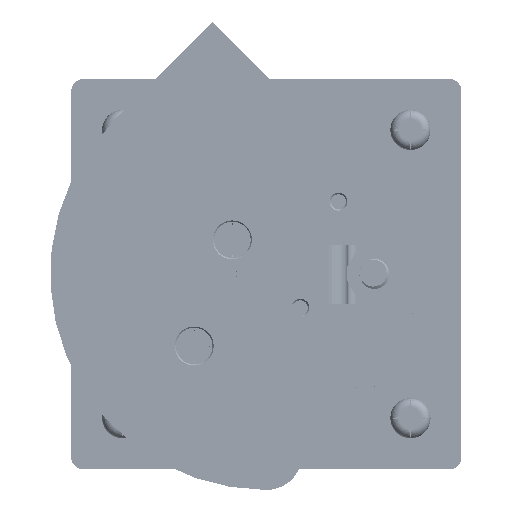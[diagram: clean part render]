
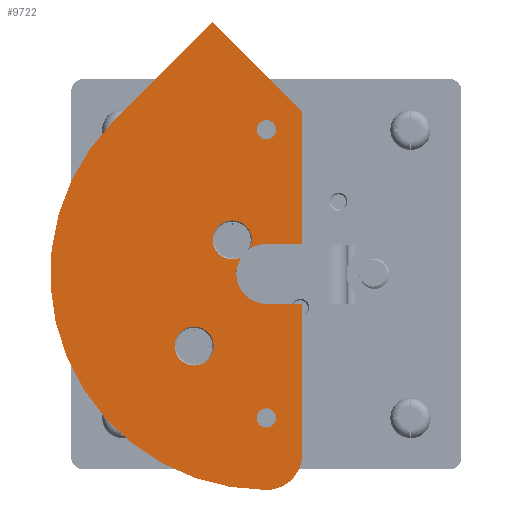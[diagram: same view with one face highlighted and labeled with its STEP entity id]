
A CAD part, front view. The second image highlights one B-rep face of the part: STEP entity #9722.
In plain terms, the highlighted planar face has unit normal (0, -1, 0).
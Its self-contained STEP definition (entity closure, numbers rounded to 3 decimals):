
#9722=ADVANCED_FACE('',(#10740,#10741,#10742,#10743),#10363,.T.);
#10363=PLANE('',#28444);
#10740=FACE_BOUND('',#12058,.T.);
#10741=FACE_BOUND('',#12059,.T.);
#10742=FACE_BOUND('',#12060,.T.);
#10743=FACE_BOUND('',#12061,.T.);
#12058=EDGE_LOOP('',(#18531,#18532,#18533,#18534,#18535,#18536,#18537,#18538,
#18539,#18540,#18541));
#12059=EDGE_LOOP('',(#18542));
#12060=EDGE_LOOP('',(#18543));
#12061=EDGE_LOOP('',(#18544));
#12875=CIRCLE('',#28418,36.);
#12877=CIRCLE('',#28421,6.);
#12879=CIRCLE('',#28426,5.);
#12881=CIRCLE('',#28428,5.);
#12887=CIRCLE('',#28440,3.25);
#12888=CIRCLE('',#28441,3.25);
#12889=CIRCLE('',#28442,1.6);
#12890=CIRCLE('',#28443,1.6);
#18531=ORIENTED_EDGE('',*,*,#23627,.T.);
#18532=ORIENTED_EDGE('',*,*,#23606,.T.);
#18533=ORIENTED_EDGE('',*,*,#23607,.T.);
#18534=ORIENTED_EDGE('',*,*,#23610,.T.);
#18535=ORIENTED_EDGE('',*,*,#23614,.T.);
#18536=ORIENTED_EDGE('',*,*,#23618,.T.);
#18537=ORIENTED_EDGE('',*,*,#23588,.T.);
#18538=ORIENTED_EDGE('',*,*,#23593,.T.);
#18539=ORIENTED_EDGE('',*,*,#23596,.T.);
#18540=ORIENTED_EDGE('',*,*,#23599,.T.);
#18541=ORIENTED_EDGE('',*,*,#23603,.T.);
#18542=ORIENTED_EDGE('',*,*,#23628,.T.);
#18543=ORIENTED_EDGE('',*,*,#23629,.T.);
#18544=ORIENTED_EDGE('',*,*,#23630,.T.);
#20684=VERTEX_POINT('',#121356);
#20685=VERTEX_POINT('',#121357);
#20689=VERTEX_POINT('',#121367);
#20691=VERTEX_POINT('',#121373);
#20693=VERTEX_POINT('',#121379);
#20695=VERTEX_POINT('',#121397);
#20696=VERTEX_POINT('',#121398);
#20698=VERTEX_POINT('',#121403);
#20699=VERTEX_POINT('',#121407);
#20701=VERTEX_POINT('',#121413);
#20704=VERTEX_POINT('',#121420);
#20713=VERTEX_POINT('',#121447);
#20714=VERTEX_POINT('',#121449);
#20715=VERTEX_POINT('',#121451);
#23588=EDGE_CURVE('',#20684,#20685,#12875,.T.);
#23593=EDGE_CURVE('',#20685,#20689,#12877,.T.);
#23596=EDGE_CURVE('',#20689,#20691,#25145,.T.);
#23599=EDGE_CURVE('',#20691,#20693,#25148,.T.);
#23603=EDGE_CURVE('',#20693,#20695,#12879,.T.);
#23606=EDGE_CURVE('',#20696,#20698,#12881,.T.);
#23607=EDGE_CURVE('',#20698,#20699,#25152,.T.);
#23610=EDGE_CURVE('',#20699,#20701,#25155,.T.);
#23614=EDGE_CURVE('',#20701,#20704,#25159,.T.);
#23618=EDGE_CURVE('',#20704,#20684,#25163,.T.);
#23627=EDGE_CURVE('',#20695,#20696,#12887,.T.);
#23628=EDGE_CURVE('',#20713,#20713,#12888,.T.);
#23629=EDGE_CURVE('',#20714,#20714,#12889,.T.);
#23630=EDGE_CURVE('',#20715,#20715,#12890,.T.);
#25145=LINE('',#121372,#26646);
#25148=LINE('',#121378,#26649);
#25152=LINE('',#121406,#26653);
#25155=LINE('',#121412,#26656);
#25159=LINE('',#121421,#26660);
#25163=LINE('',#121428,#26664);
#26646=VECTOR('',#33291,1.);
#26649=VECTOR('',#33296,1.);
#26653=VECTOR('',#33310,1.);
#26656=VECTOR('',#33315,1.);
#26660=VECTOR('',#33321,1.);
#26664=VECTOR('',#33327,1.);
#28418=AXIS2_PLACEMENT_3D('',#121355,#33275,#33276);
#28421=AXIS2_PLACEMENT_3D('',#121366,#33284,#33285);
#28426=AXIS2_PLACEMENT_3D('',#121399,#33301,#33302);
#28428=AXIS2_PLACEMENT_3D('',#121404,#33306,#33307);
#28440=AXIS2_PLACEMENT_3D('',#121445,#33345,#33346);
#28441=AXIS2_PLACEMENT_3D('',#121446,#33347,#33348);
#28442=AXIS2_PLACEMENT_3D('',#121448,#33349,#33350);
#28443=AXIS2_PLACEMENT_3D('',#121450,#33351,#33352);
#28444=AXIS2_PLACEMENT_3D('',#121452,#33353,#33354);
#33275=DIRECTION('',(0.,-1.,0.));
#33276=DIRECTION('',(-1.,0.,0.));
#33284=DIRECTION('',(0.,-1.,0.));
#33285=DIRECTION('',(-1.,0.,0.));
#33291=DIRECTION('',(0.,0.,1.));
#33296=DIRECTION('',(-1.,0.,0.));
#33301=DIRECTION('',(0.,1.,0.));
#33302=DIRECTION('',(-1.,0.,0.));
#33306=DIRECTION('',(0.,1.,0.));
#33307=DIRECTION('',(-1.,0.,0.));
#33310=DIRECTION('',(1.,0.,0.));
#33315=DIRECTION('',(0.,0.,1.));
#33321=DIRECTION('',(-0.707,0.,0.707));
#33327=DIRECTION('',(-0.707,0.,-0.707));
#33345=DIRECTION('',(0.,1.,0.));
#33346=DIRECTION('',(0.,0.,1.));
#33347=DIRECTION('',(0.,1.,0.));
#33348=DIRECTION('',(0.,0.,1.));
#33349=DIRECTION('',(0.,1.,0.));
#33350=DIRECTION('',(0.,0.,1.));
#33351=DIRECTION('',(0.,1.,0.));
#33352=DIRECTION('',(0.,0.,1.));
#33353=DIRECTION('',(0.,-1.,0.));
#33354=DIRECTION('',(0.,0.,1.));
#121355=CARTESIAN_POINT('',(0.,-63.1,0.046));
#121356=CARTESIAN_POINT('',(-25.456,-63.1,25.502));
#121357=CARTESIAN_POINT('',(0.,-63.1,-35.954));
#121366=CARTESIAN_POINT('',(0.,-63.1,-29.954));
#121367=CARTESIAN_POINT('',(6.,-63.1,-29.954));
#121372=CARTESIAN_POINT('',(6.,-63.1,-29.954));
#121373=CARTESIAN_POINT('',(6.,-63.1,-4.954));
#121378=CARTESIAN_POINT('',(6.,-63.1,-4.954));
#121379=CARTESIAN_POINT('',(0.,-63.1,-4.954));
#121397=CARTESIAN_POINT('',(-4.162,-63.1,2.817));
#121398=CARTESIAN_POINT('',(-2.771,-63.1,4.208));
#121399=CARTESIAN_POINT('',(0.,-63.1,0.046));
#121403=CARTESIAN_POINT('',(0.,-63.1,5.046));
#121404=CARTESIAN_POINT('',(0.,-63.1,0.046));
#121406=CARTESIAN_POINT('',(0.,-63.1,5.046));
#121407=CARTESIAN_POINT('',(6.,-63.1,5.046));
#121412=CARTESIAN_POINT('',(6.,-63.1,5.046));
#121413=CARTESIAN_POINT('',(6.,-63.1,27.046));
#121420=CARTESIAN_POINT('',(-8.956,-63.1,42.002));
#121421=CARTESIAN_POINT('',(-2.884,-63.1,35.93));
#121428=CARTESIAN_POINT('',(-8.956,-63.1,42.002));
#121445=CARTESIAN_POINT('',(-5.657,-63.1,5.703));
#121446=CARTESIAN_POINT('',(-12.021,-63.1,-11.975));
#121447=CARTESIAN_POINT('',(-12.021,-63.1,-8.725));
#121448=CARTESIAN_POINT('',(0.,-63.1,24.046));
#121449=CARTESIAN_POINT('',(0.,-63.1,25.646));
#121450=CARTESIAN_POINT('',(0.,-63.1,-23.954));
#121451=CARTESIAN_POINT('',(0.,-63.1,-22.354));
#121452=CARTESIAN_POINT('',(0.,-63.1,0.046));
